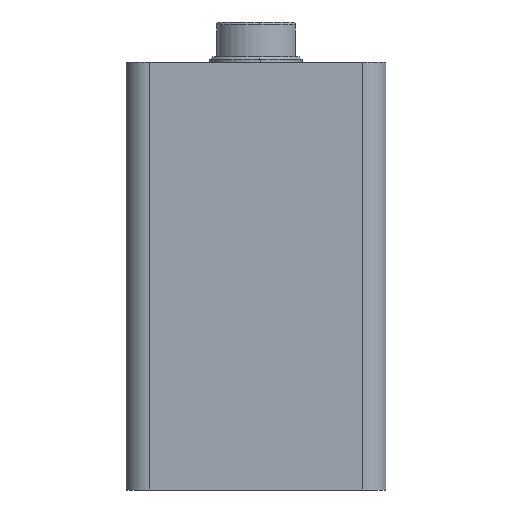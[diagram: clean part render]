
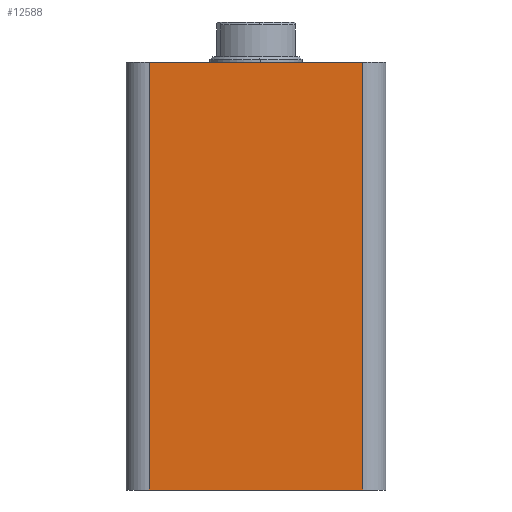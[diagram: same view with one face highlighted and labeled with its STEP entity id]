
A CAD part, front view. The second image highlights one B-rep face of the part: STEP entity #12588.
In plain terms, the highlighted planar face has unit normal (0, -1, 0).
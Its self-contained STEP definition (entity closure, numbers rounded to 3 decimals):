
#563 = DIRECTION ( 'NONE',  ( 1., 0., 0. ) ) ;
#573 = CARTESIAN_POINT ( 'NONE',  ( 4., 0., 74. ) ) ;
#1169 = EDGE_CURVE ( 'NONE', #11075, #5068, #15666, .T. ) ;
#1826 = DIRECTION ( 'NONE',  ( 0., 1., 0. ) ) ;
#3459 = VECTOR ( 'NONE', #8728, 1000. ) ;
#3609 = ORIENTED_EDGE ( 'NONE', *, *, #15100, .T. ) ;
#4177 = ORIENTED_EDGE ( 'NONE', *, *, #1169, .T. ) ;
#4464 = AXIS2_PLACEMENT_3D ( 'NONE', #13527, #1826, #12254 ) ;
#4799 = LINE ( 'NONE', #10014, #3459 ) ;
#5068 = VERTEX_POINT ( 'NONE', #12411 ) ;
#5132 = EDGE_CURVE ( 'NONE', #10839, #5068, #4799, .T. ) ;
#5163 = CARTESIAN_POINT ( 'NONE',  ( 41., 0., 74. ) ) ;
#5665 = FACE_OUTER_BOUND ( 'NONE', #7172, .T. ) ;
#6095 = VECTOR ( 'NONE', #9152, 1000. ) ;
#6553 = VECTOR ( 'NONE', #563, 1000. ) ;
#7124 = EDGE_CURVE ( 'NONE', #14817, #11075, #13441, .T. ) ;
#7172 = EDGE_LOOP ( 'NONE', ( #16669, #4177, #10244, #3609 ) ) ;
#7940 = LINE ( 'NONE', #9228, #6095 ) ;
#8728 = DIRECTION ( 'NONE',  ( 1., 0., 0. ) ) ;
#9152 = DIRECTION ( 'NONE',  ( 0., 0., -1. ) ) ;
#9228 = CARTESIAN_POINT ( 'NONE',  ( 4., 0., 74. ) ) ;
#9610 = CARTESIAN_POINT ( 'NONE',  ( 0., 0., 0. ) ) ;
#9668 = CARTESIAN_POINT ( 'NONE',  ( 41., 0., 0. ) ) ;
#9704 = CARTESIAN_POINT ( 'NONE',  ( 4., 0., 0. ) ) ;
#10014 = CARTESIAN_POINT ( 'NONE',  ( 0., 0., 74. ) ) ;
#10244 = ORIENTED_EDGE ( 'NONE', *, *, #5132, .F. ) ;
#10839 = VERTEX_POINT ( 'NONE', #573 ) ;
#11075 = VERTEX_POINT ( 'NONE', #9668 ) ;
#12254 = DIRECTION ( 'NONE',  ( 0., 0., 1. ) ) ;
#12411 = CARTESIAN_POINT ( 'NONE',  ( 41., 0., 74. ) ) ;
#12588 = ADVANCED_FACE ( 'NONE', ( #5665 ), #14898, .F. ) ;
#13441 = LINE ( 'NONE', #9610, #6553 ) ;
#13527 = CARTESIAN_POINT ( 'NONE',  ( 0., 0., 74. ) ) ;
#13858 = VECTOR ( 'NONE', #15493, 1000. ) ;
#14817 = VERTEX_POINT ( 'NONE', #9704 ) ;
#14898 = PLANE ( 'NONE',  #4464 ) ;
#15100 = EDGE_CURVE ( 'NONE', #10839, #14817, #7940, .T. ) ;
#15493 = DIRECTION ( 'NONE',  ( 0., 0., 1. ) ) ;
#15666 = LINE ( 'NONE', #5163, #13858 ) ;
#16669 = ORIENTED_EDGE ( 'NONE', *, *, #7124, .T. ) ;
